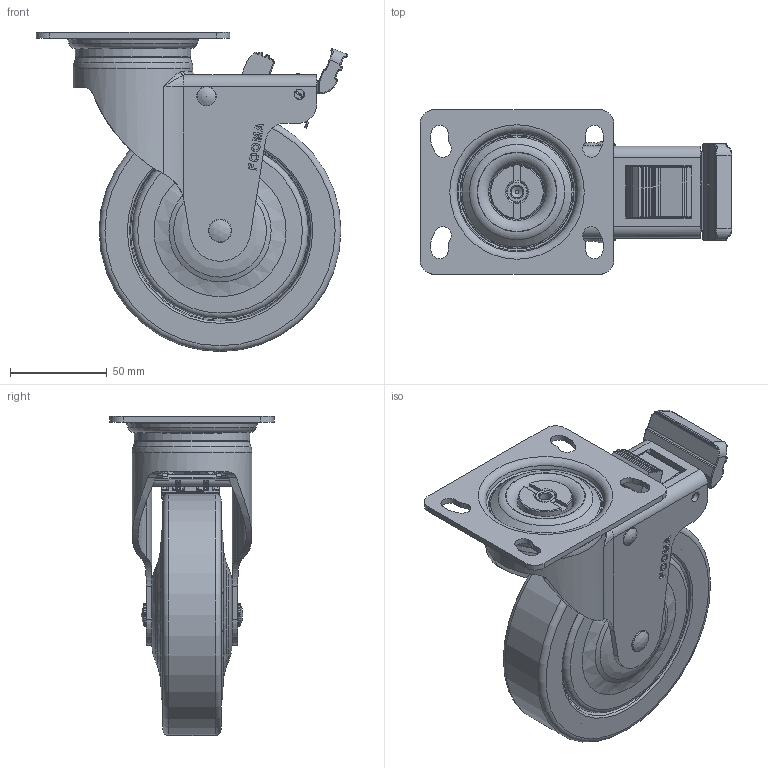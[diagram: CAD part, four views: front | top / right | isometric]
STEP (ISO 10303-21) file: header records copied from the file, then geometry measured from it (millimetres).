
FILE_DESCRIPTION((''),'2;1');
FILE_NAME('C:\Documents and Settings\Administrator\바탕 화면\3D STEP\P-SERIES\P-125-BSF\P-125-BSF.stp','2010-12-27T15:13:01',('Administrator'),(''),'Autodesk Inventor 2009','Autodesk Inventor 2009','');
FILE_SCHEMA(('AUTOMOTIVE_DESIGN { 1 0 10303 214 1 1 1 1 }'));
Length unit declared in the file: millimetre
Products named in the file (1): P-125-BSF
Bounding box: 161 x 85 x 165 mm (x, y, z)
Volume: 396350.7 mm3; surface area: 182288.4 mm2
Topology: 14 solids, 14 shells, 1535 faces, 4259 edges, 2760 vertices
Faces by surface type: plane 600, cylinder 516, bspline 219, torus 106, cone 48, sphere 46
Full cylindrical faces by diameter (mm): 2 x2, 3 x3, 4.6 x1, 4.8 x1, 5 x1, 5.2 x2, 5.998 x1, 6 x1, 6.2 x2, 7.8 x1, 8 x2, 8.2 x2, 9.998 x2, 12 x9, 13.4 x1, 18 x5, 22 x4, 28 x1, 31 x1, 34 x2, 51.902 x1, 54 x1, 56 x1, 59.902 x1, 62 x1, 86 x2, 91 x2, 124.998 x1
Entity records: 63043 total; most frequent: CARTESIAN_POINT 25541, ORIENTED_EDGE 7896, DIRECTION 7572, EDGE_CURVE 3948, AXIS2_PLACEMENT_3D 2841, VERTEX_POINT 2670, VECTOR 1890, LINE 1890
